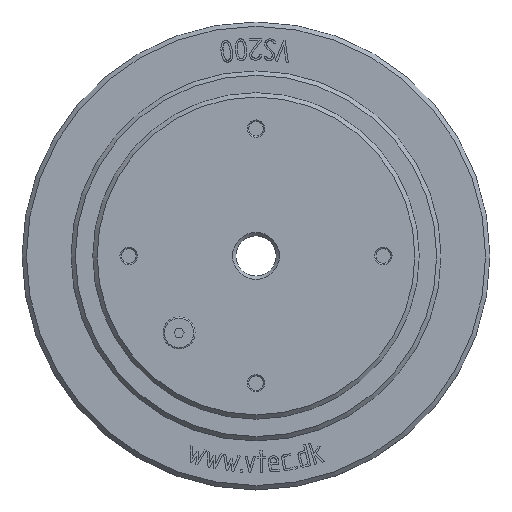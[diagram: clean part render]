
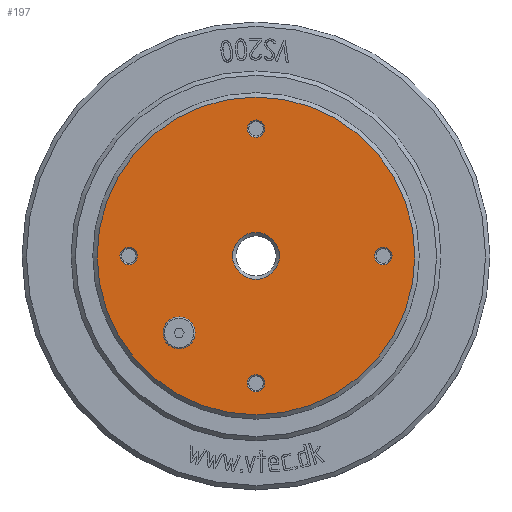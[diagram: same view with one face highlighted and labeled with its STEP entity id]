
A CAD part, top view. The second image highlights one B-rep face of the part: STEP entity #197.
In plain terms, the highlighted planar face has unit normal (0, 0, 1).
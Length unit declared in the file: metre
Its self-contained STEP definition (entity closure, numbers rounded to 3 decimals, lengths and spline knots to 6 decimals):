
#197 = ADVANCED_FACE( '', ( #545, #546, #547, #548, #549, #550, #551 ), #552, .F. );
#545 = FACE_BOUND( '', #1058, .T. );
#546 = FACE_BOUND( '', #1059, .T. );
#547 = FACE_BOUND( '', #1060, .T. );
#548 = FACE_BOUND( '', #1061, .T. );
#549 = FACE_BOUND( '', #1062, .T. );
#550 = FACE_OUTER_BOUND( '', #1063, .T. );
#551 = FACE_BOUND( '', #1064, .T. );
#552 = PLANE( '', #1065 );
#1058 = EDGE_LOOP( '', ( #2529 ) );
#1059 = EDGE_LOOP( '', ( #2530 ) );
#1060 = EDGE_LOOP( '', ( #2531 ) );
#1061 = EDGE_LOOP( '', ( #2532 ) );
#1062 = EDGE_LOOP( '', ( #2533 ) );
#1063 = EDGE_LOOP( '', ( #2534 ) );
#1064 = EDGE_LOOP( '', ( #2535 ) );
#1065 = AXIS2_PLACEMENT_3D( '', #2536, #2537, #2538 );
#2529 = ORIENTED_EDGE( '', *, *, #3332, .T. );
#2530 = ORIENTED_EDGE( '', *, *, #3333, .T. );
#2531 = ORIENTED_EDGE( '', *, *, #3334, .T. );
#2532 = ORIENTED_EDGE( '', *, *, #3091, .T. );
#2533 = ORIENTED_EDGE( '', *, *, #3335, .T. );
#2534 = ORIENTED_EDGE( '', *, *, #3330, .T. );
#2535 = ORIENTED_EDGE( '', *, *, #3322, .F. );
#2536 = CARTESIAN_POINT( '', ( 0.073, 0., 0.017 ) );
#2537 = DIRECTION( '', ( 0., 0., -1. ) );
#2538 = DIRECTION( '', ( -1., 0., 0. ) );
#3091 = EDGE_CURVE( '', #3635, #3635, #3636, .T. );
#3322 = EDGE_CURVE( '', #4010, #4010, #4011, .F. );
#3330 = EDGE_CURVE( '', #4026, #4026, #4027, .T. );
#3332 = EDGE_CURVE( '', #4030, #4030, #4031, .T. );
#3333 = EDGE_CURVE( '', #4032, #4032, #4033, .T. );
#3334 = EDGE_CURVE( '', #4034, #4034, #4035, .T. );
#3335 = EDGE_CURVE( '', #4036, #4036, #4037, .T. );
#3635 = VERTEX_POINT( '', #4923 );
#3636 = CIRCLE( '', #4924, 0.004 );
#4010 = VERTEX_POINT( '', #5902 );
#4011 = CIRCLE( '', #5903, 0.00735 );
#4026 = VERTEX_POINT( '', #5918 );
#4027 = CIRCLE( '', #5919, 0.073 );
#4030 = VERTEX_POINT( '', #5922 );
#4031 = CIRCLE( '', #5923, 0.004 );
#4032 = VERTEX_POINT( '', #5924 );
#4033 = CIRCLE( '', #5925, 0.004 );
#4034 = VERTEX_POINT( '', #5926 );
#4035 = CIRCLE( '', #5927, 0.004 );
#4036 = VERTEX_POINT( '', #5928 );
#4037 = CIRCLE( '', #5929, 0.01075 );
#4923 = CARTESIAN_POINT( '', ( 0.0545, 0., 0.017 ) );
#4924 = AXIS2_PLACEMENT_3D( '', #6166, #6167, #6168 );
#5902 = CARTESIAN_POINT( '', ( -0.042705, -0.035355, 0.017 ) );
#5903 = AXIS2_PLACEMENT_3D( '', #6390, #6391, #6392 );
#5918 = CARTESIAN_POINT( '', ( 0.073, 0., 0.017 ) );
#5919 = AXIS2_PLACEMENT_3D( '', #6414, #6415, #6416 );
#5922 = CARTESIAN_POINT( '', ( -0.0625, 0., 0.017 ) );
#5923 = AXIS2_PLACEMENT_3D( '', #6420, #6421, #6422 );
#5924 = CARTESIAN_POINT( '', ( -0.004, -0.0585, 0.017 ) );
#5925 = AXIS2_PLACEMENT_3D( '', #6423, #6424, #6425 );
#5926 = CARTESIAN_POINT( '', ( -0.004, 0.0585, 0.017 ) );
#5927 = AXIS2_PLACEMENT_3D( '', #6426, #6427, #6428 );
#5928 = CARTESIAN_POINT( '', ( -0.01075, 0., 0.017 ) );
#5929 = AXIS2_PLACEMENT_3D( '', #6429, #6430, #6431 );
#6166 = CARTESIAN_POINT( '', ( 0.0585, 0., 0.017 ) );
#6167 = DIRECTION( '', ( 0., 0., -1. ) );
#6168 = DIRECTION( '', ( -1., 0., 0. ) );
#6390 = CARTESIAN_POINT( '', ( -0.035355, -0.035355, 0.017 ) );
#6391 = DIRECTION( '', ( 0., 0., -1. ) );
#6392 = DIRECTION( '', ( -1., 0., 0. ) );
#6414 = CARTESIAN_POINT( '', ( 0., 0., 0.017 ) );
#6415 = DIRECTION( '', ( 0., 0., 1. ) );
#6416 = DIRECTION( '', ( 1., 0., 0. ) );
#6420 = CARTESIAN_POINT( '', ( -0.0585, 0., 0.017 ) );
#6421 = DIRECTION( '', ( 0., 0., -1. ) );
#6422 = DIRECTION( '', ( -1., 0., 0. ) );
#6423 = CARTESIAN_POINT( '', ( 0., -0.0585, 0.017 ) );
#6424 = DIRECTION( '', ( 0., 0., -1. ) );
#6425 = DIRECTION( '', ( -1., 0., 0. ) );
#6426 = CARTESIAN_POINT( '', ( 0., 0.0585, 0.017 ) );
#6427 = DIRECTION( '', ( 0., 0., -1. ) );
#6428 = DIRECTION( '', ( -1., 0., 0. ) );
#6429 = CARTESIAN_POINT( '', ( 0., 0., 0.017 ) );
#6430 = DIRECTION( '', ( 0., 0., -1. ) );
#6431 = DIRECTION( '', ( -1., 0., 0. ) );
